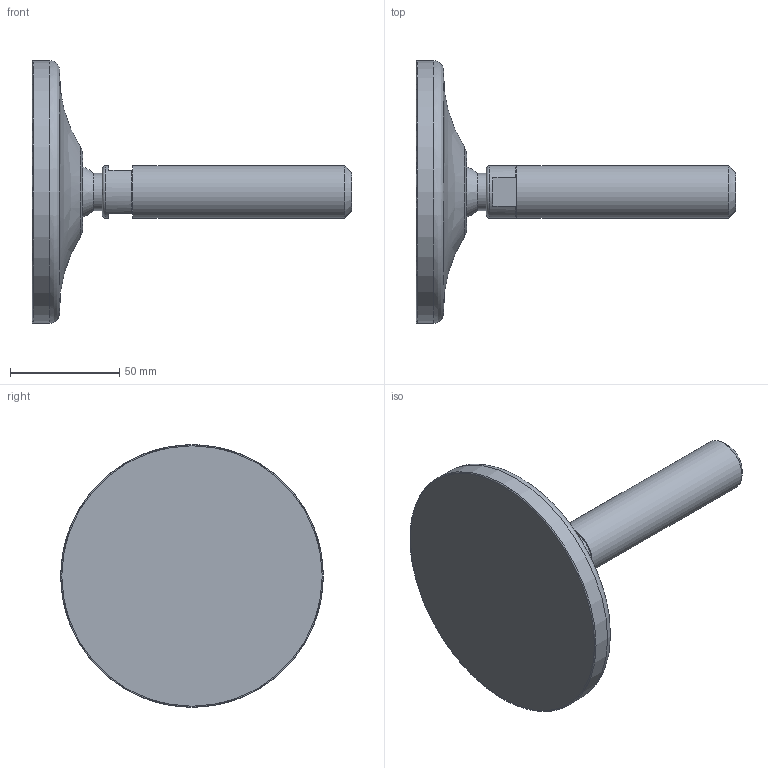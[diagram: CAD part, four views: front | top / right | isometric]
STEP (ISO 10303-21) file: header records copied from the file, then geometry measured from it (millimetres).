
FILE_DESCRIPTION(('STEP AP203'),'2;1');
FILE_NAME('10852.stp','2016-10-27T07:11:06',(''),(''),'2008.1.107','THINKDESIGN','');
FILE_SCHEMA(('CONFIG_CONTROL_DESIGN'));
Length unit declared in the file: millimetre
Bounding box: 146 x 120 x 120 mm (x, y, z)
Volume: 224782.9 mm3; surface area: 38287.4 mm2
Topology: 4 solids, 4 shells, 26 faces, 61 edges, 44 vertices
Faces by surface type: plane 12, bspline 10, cylinder 4
Full cylindrical faces by diameter (mm): 17 x1, 24 x2, 120 x1
Entity records: 1655 total; most frequent: CARTESIAN_POINT 865, DIRECTION 132, ORIENTED_EDGE 120, EDGE_CURVE 60, AXIS2_PLACEMENT_3D 59, CIRCLE 43, VERTEX_POINT 42, EDGE_LOOP 26
